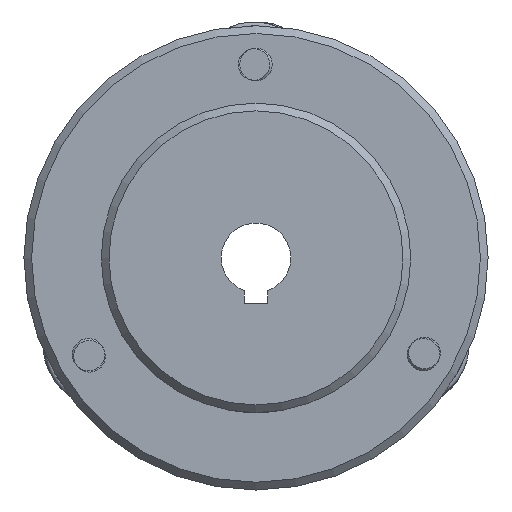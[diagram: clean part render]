
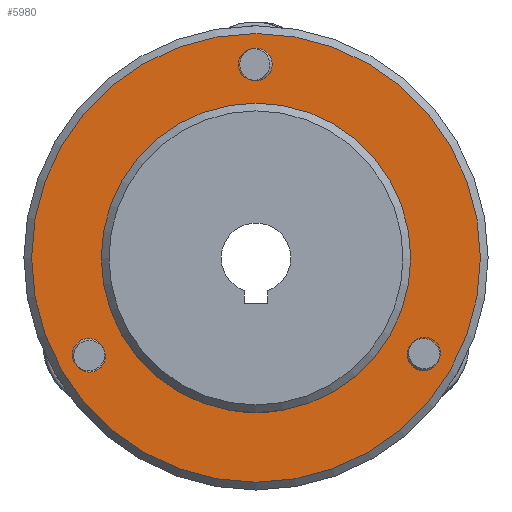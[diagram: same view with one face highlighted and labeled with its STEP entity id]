
A CAD part, left-side view. The second image highlights one B-rep face of the part: STEP entity #5980.
In plain terms, the highlighted planar face has unit normal (-1, 0, 0) as drawn and (0, 1, 0) by its records, which use the part's own axes.
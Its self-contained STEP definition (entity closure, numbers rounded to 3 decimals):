
#1147=FACE_BOUND('',#1970,.T.);
#1148=FACE_BOUND('',#1971,.T.);
#1149=FACE_BOUND('',#1972,.T.);
#1150=FACE_BOUND('',#1973,.T.);
#1537=FACE_OUTER_BOUND('',#1969,.T.);
#1969=EDGE_LOOP('',(#5484));
#1970=EDGE_LOOP('',(#5485));
#1971=EDGE_LOOP('',(#5486));
#1972=EDGE_LOOP('',(#5487));
#1973=EDGE_LOOP('',(#5488));
#2413=CIRCLE('',#6930,40.);
#2414=CIRCLE('',#6933,58.);
#2417=CIRCLE('',#6938,4.188);
#2418=CIRCLE('',#6939,4.188);
#2419=CIRCLE('',#6940,4.188);
#2910=VERTEX_POINT('',#12872);
#2914=VERTEX_POINT('',#12919);
#2917=VERTEX_POINT('',#12929);
#2918=VERTEX_POINT('',#12931);
#2919=VERTEX_POINT('',#12933);
#3768=EDGE_CURVE('',#2910,#2910,#2413,.T.);
#3772=EDGE_CURVE('',#2914,#2914,#2414,.T.);
#3777=EDGE_CURVE('',#2917,#2917,#2417,.T.);
#3778=EDGE_CURVE('',#2918,#2918,#2418,.T.);
#3779=EDGE_CURVE('',#2919,#2919,#2419,.T.);
#5484=ORIENTED_EDGE('',*,*,#3772,.F.);
#5485=ORIENTED_EDGE('',*,*,#3768,.F.);
#5486=ORIENTED_EDGE('',*,*,#3777,.T.);
#5487=ORIENTED_EDGE('',*,*,#3778,.T.);
#5488=ORIENTED_EDGE('',*,*,#3779,.T.);
#5596=PLANE('',#6937);
#5980=ADVANCED_FACE('',(#1537,#1147,#1148,#1149,#1150),#5596,.T.);
#6930=AXIS2_PLACEMENT_3D('',#12874,#8781,#8782);
#6933=AXIS2_PLACEMENT_3D('',#12920,#8787,#8788);
#6937=AXIS2_PLACEMENT_3D('',#12928,#8797,#8798);
#6938=AXIS2_PLACEMENT_3D('',#12930,#8799,#8800);
#6939=AXIS2_PLACEMENT_3D('',#12932,#8801,#8802);
#6940=AXIS2_PLACEMENT_3D('',#12934,#8803,#8804);
#8781=DIRECTION('center_axis',(0.,1.,0.));
#8782=DIRECTION('ref_axis',(-1.,0.,0.));
#8787=DIRECTION('center_axis',(0.,-1.,0.));
#8788=DIRECTION('ref_axis',(1.,0.,0.));
#8797=DIRECTION('center_axis',(0.,1.,0.));
#8798=DIRECTION('ref_axis',(0.,0.,1.));
#8799=DIRECTION('center_axis',(0.,-1.,0.));
#8800=DIRECTION('ref_axis',(1.,0.,0.));
#8801=DIRECTION('center_axis',(0.,-1.,0.));
#8802=DIRECTION('ref_axis',(1.,0.,0.));
#8803=DIRECTION('center_axis',(0.,-1.,0.));
#8804=DIRECTION('ref_axis',(1.,0.,0.));
#12872=CARTESIAN_POINT('',(40.,10.,0.));
#12874=CARTESIAN_POINT('Origin',(0.,10.,0.));
#12919=CARTESIAN_POINT('',(-58.,10.,0.));
#12920=CARTESIAN_POINT('Origin',(0.,10.,0.));
#12928=CARTESIAN_POINT('Origin',(-50.,10.,0.));
#12929=CARTESIAN_POINT('',(-47.489,10.,-25.));
#12930=CARTESIAN_POINT('Origin',(-43.301,10.,-25.));
#12931=CARTESIAN_POINT('',(-4.188,10.,50.));
#12932=CARTESIAN_POINT('Origin',(0.,10.,50.));
#12933=CARTESIAN_POINT('',(39.113,10.,-25.));
#12934=CARTESIAN_POINT('Origin',(43.301,10.,-25.));
